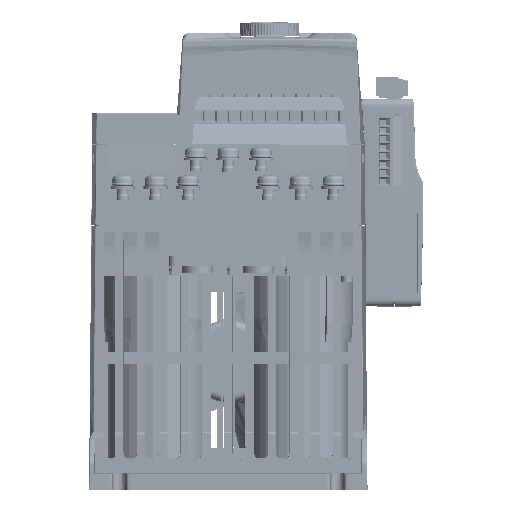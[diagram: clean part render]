
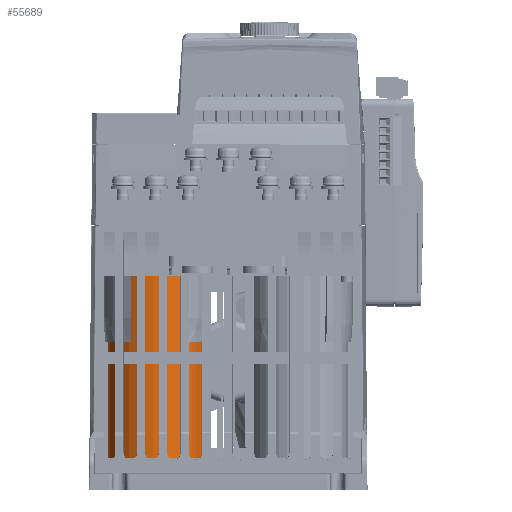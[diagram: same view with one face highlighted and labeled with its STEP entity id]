
A CAD part, front view. The second image highlights one B-rep face of the part: STEP entity #55689.
In plain terms, the highlighted cylindrical face has radius 20.1 mm (diameter 40.2 mm), a partial arc.
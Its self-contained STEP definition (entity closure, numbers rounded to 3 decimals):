
#24877=CYLINDRICAL_SURFACE('',#516621,20.1);
#30277=FACE_OUTER_BOUND('',#113567,.T.);
#55689=ADVANCED_FACE('',(#30277),#24877,.T.);
#98947=CIRCLE('',#516598,20.1);
#98966=CIRCLE('',#516620,20.1);
#113567=EDGE_LOOP('',(#253308,#253309,#253310,#253311));
#144135=LINE('',#683768,#195590);
#144136=LINE('',#683770,#195591);
#195590=VECTOR('',#556546,1.);
#195591=VECTOR('',#556547,1.);
#253308=ORIENTED_EDGE('',*,*,#437846,.F.);
#253309=ORIENTED_EDGE('',*,*,#437801,.F.);
#253310=ORIENTED_EDGE('',*,*,#437847,.F.);
#253311=ORIENTED_EDGE('',*,*,#437848,.T.);
#389617=VERTEX_POINT('',#683672);
#389619=VERTEX_POINT('',#683676);
#389663=VERTEX_POINT('',#683769);
#389664=VERTEX_POINT('',#683771);
#437801=EDGE_CURVE('',#389619,#389617,#98947,.T.);
#437846=EDGE_CURVE('',#389617,#389663,#144135,.T.);
#437847=EDGE_CURVE('',#389664,#389619,#144136,.T.);
#437848=EDGE_CURVE('',#389664,#389663,#98966,.T.);
#516598=AXIS2_PLACEMENT_3D('',#683677,#556476,#556477);
#516620=AXIS2_PLACEMENT_3D('',#683772,#556548,#556549);
#516621=AXIS2_PLACEMENT_3D('',#683773,#556550,#556551);
#556476=DIRECTION('',(0.,0.,1.));
#556477=DIRECTION('',(-1.,0.,0.));
#556546=DIRECTION('',(0.,0.,-1.));
#556547=DIRECTION('',(0.,0.,1.));
#556548=DIRECTION('',(0.,0.,1.));
#556549=DIRECTION('',(0.,-1.,0.));
#556550=DIRECTION('',(0.,0.,1.));
#556551=DIRECTION('',(-1.,0.,0.));
#683672=CARTESIAN_POINT('',(-964.604,18.734,-209.428));
#683676=CARTESIAN_POINT('',(-976.604,18.734,-209.428));
#683677=CARTESIAN_POINT('',(-970.604,-0.45,-209.428));
#683768=CARTESIAN_POINT('',(-964.604,18.734,-280.928));
#683769=CARTESIAN_POINT('',(-964.604,18.734,-291.428));
#683770=CARTESIAN_POINT('',(-976.604,18.734,-280.928));
#683771=CARTESIAN_POINT('',(-976.604,18.734,-291.428));
#683772=CARTESIAN_POINT('',(-970.604,-0.45,-291.428));
#683773=CARTESIAN_POINT('',(-970.604,-0.45,-280.928));
